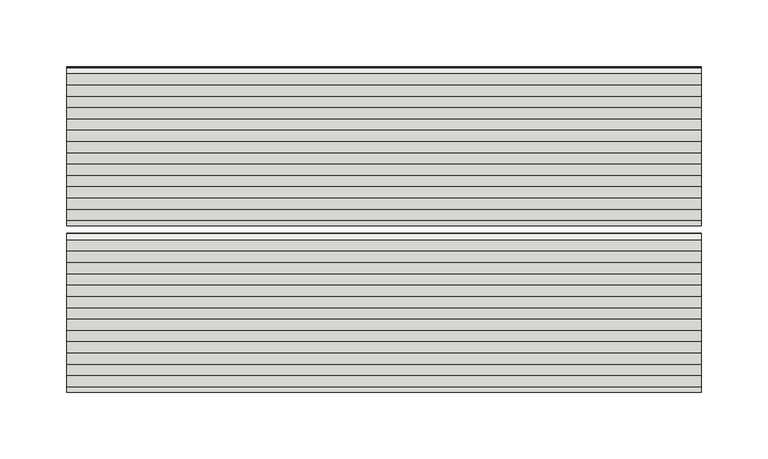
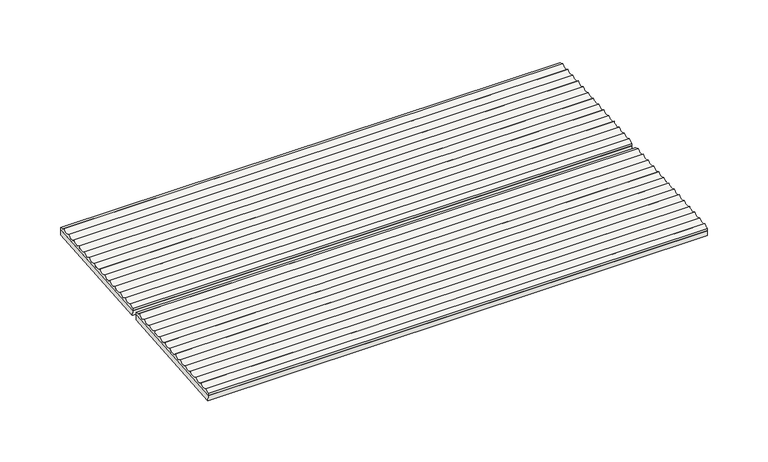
"""IFC4 building model written with IfcOpenShell, lengths in millimetres: slab geometry, ROSA GRES_001 (2 filas) : Piezas 001_Aqua_Blanco_Anti-Slip."""

from ifc_helpers import new_model, si_unit, point, frame, frame_2d, origin, place, context, project, spatial, polyline, circle_curve, trimmed, segment, composite_curve, outline, extrude, source, transform, mapped, element, save


def slab_7381d756(model_context):
    return source(origin(), model_context, "Body", "SweptSolid", [
        extrude(outline(polyline([(0.0, -118.9996), (0.0, 0.0), (475.4755445, 0.0), (475.4755445, -118.9996), (0.0, -118.9996)])), frame((475.4755445, 124.0577627, 199.6968204), z_axis=(0.0, -0.08112705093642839, 0.9967037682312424), x_axis=(-1.0, 0.0, 0.0)), (0.0, 0.0, 1.0), 5.0),
        extrude(outline(polyline([(0.0, -118.9996), (0.0, 0.0), (475.4755445, 0.0), (475.4755445, -118.9996), (0.0, -118.9996)])), frame((475.4755445, 248.6453351, 209.8376693), z_axis=(0.0, -0.08112705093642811, 0.9967037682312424), x_axis=(-1.0, 0.0, 0.0)), (0.0, 0.0, 1.0), 5.0),
        extrude(outline(composite_curve([segment(polyline([(242.2594772, 214.3344258), (123.6521274, 204.6803392), (123.4389282, 207.2996439)]), True, "CONTINUOUS"), segment(trimmed(circle_curve(frame_2d((122.9853249, 212.8724843)), 5.5912705), [point((123.4389282, 207.2996439))], [point((127.5160501, 209.5960785))], True, "CARTESIAN"), True, "CONTINUOUS"), segment(trimmed(circle_curve(frame_2d((131.4572785, 213.5620619)), 5.5912705), [point((127.5160501, 209.5960785))], [point((135.9880037, 210.2856561))], True, "CARTESIAN"), True, "CONTINUOUS"), segment(trimmed(circle_curve(frame_2d((139.929232, 214.2516395)), 5.5912705), [point((135.9880037, 210.2856561))], [point((144.4599572, 210.9752337))], True, "CARTESIAN"), True, "CONTINUOUS"), segment(trimmed(circle_curve(frame_2d((148.4011856, 214.9412171)), 5.5912705), [point((144.4599572, 210.9752337))], [point((152.9319108, 211.6648113))], True, "CARTESIAN"), True, "CONTINUOUS"), segment(trimmed(circle_curve(frame_2d((156.8731392, 215.6307947)), 5.5912705), [point((152.9319108, 211.6648113))], [point((161.4038643, 212.3543889))], True, "CARTESIAN"), True, "CONTINUOUS"), segment(trimmed(circle_curve(frame_2d((165.3450927, 216.3203723)), 5.5912705), [point((161.4038643, 212.3543889))], [point((169.8758179, 213.0439666))], True, "CARTESIAN"), True, "CONTINUOUS"), segment(trimmed(circle_curve(frame_2d((173.8170463, 217.00995)), 5.5912705), [point((169.8758179, 213.0439666))], [point((178.3477714, 213.7335442))], True, "CARTESIAN"), True, "CONTINUOUS"), segment(trimmed(circle_curve(frame_2d((182.2889998, 217.6995276)), 5.5912705), [point((178.3477714, 213.7335442))], [point((186.819725, 214.4231218))], True, "CARTESIAN"), True, "CONTINUOUS"), segment(trimmed(circle_curve(frame_2d((190.7609534, 218.3891052)), 5.5912705), [point((186.819725, 214.4231218))], [point((195.2916785, 215.1126994))], True, "CARTESIAN"), True, "CONTINUOUS"), segment(trimmed(circle_curve(frame_2d((199.2329069, 219.0786828)), 5.5912705), [point((195.2916785, 215.1126994))], [point((203.7636321, 215.802277))], True, "CARTESIAN"), True, "CONTINUOUS"), segment(trimmed(circle_curve(frame_2d((207.7048605, 219.7682604)), 5.5912705), [point((203.7636321, 215.802277))], [point((212.2355856, 216.4918546))], True, "CARTESIAN"), True, "CONTINUOUS"), segment(trimmed(circle_curve(frame_2d((216.176814, 220.457838)), 5.5912705), [point((212.2355856, 216.4918546))], [point((220.7075392, 217.1814322))], True, "CARTESIAN"), True, "CONTINUOUS"), segment(trimmed(circle_curve(frame_2d((224.6487676, 221.1474157)), 5.5912705), [point((220.7075392, 217.1814322))], [point((229.1794928, 217.8710099))], True, "CARTESIAN"), True, "CONTINUOUS"), segment(trimmed(circle_curve(frame_2d((233.1207211, 221.8369933)), 5.5912705), [point((229.1794928, 217.8710099))], [point((237.6514463, 218.5605875))], True, "CARTESIAN"), True, "CONTINUOUS"), segment(trimmed(circle_curve(frame_2d((241.5926747, 222.5265709)), 5.5912705), [point((237.6514463, 218.5605875))], [point((242.046278, 216.9537305))], True, "CARTESIAN"), True, "CONTINUOUS"), segment(polyline([(242.046278, 216.9537305), (242.2594772, 214.3344258)]), True, "CONTINUOUS")], self_intersect=False)), frame((0.0, 0.0, 0.0), z_axis=(1.0, 0.0, 0.0), x_axis=(0.0, 1.0, 0.0)), (0.0, 0.0, 1.0), 475.4755445),
        extrude(outline(composite_curve([segment(polyline([(366.8470495, 224.4752747), (248.2396998, 214.8211881), (248.0265006, 217.4404928)]), True, "CONTINUOUS"), segment(trimmed(circle_curve(frame_2d((247.5728973, 223.0133332)), 5.5912705), [point((248.0265006, 217.4404928))], [point((252.1036225, 219.7369274))], True, "CARTESIAN"), True, "CONTINUOUS"), segment(trimmed(circle_curve(frame_2d((256.0448508, 223.7029108)), 5.5912705), [point((252.1036225, 219.7369274))], [point((260.575576, 220.426505))], True, "CARTESIAN"), True, "CONTINUOUS"), segment(trimmed(circle_curve(frame_2d((264.5168044, 224.3924884)), 5.5912705), [point((260.575576, 220.426505))], [point((269.0475296, 221.1160826))], True, "CARTESIAN"), True, "CONTINUOUS"), segment(trimmed(circle_curve(frame_2d((272.9887579, 225.082066)), 5.5912705), [point((269.0475296, 221.1160826))], [point((277.5194831, 221.8056602))], True, "CARTESIAN"), True, "CONTINUOUS"), segment(trimmed(circle_curve(frame_2d((281.4607115, 225.7716436)), 5.5912705), [point((277.5194831, 221.8056602))], [point((285.9914367, 222.4952379))], True, "CARTESIAN"), True, "CONTINUOUS"), segment(trimmed(circle_curve(frame_2d((289.9326651, 226.4612213)), 5.5912705), [point((285.9914367, 222.4952379))], [point((294.4633902, 223.1848155))], True, "CARTESIAN"), True, "CONTINUOUS"), segment(trimmed(circle_curve(frame_2d((298.4046186, 227.1507989)), 5.5912705), [point((294.4633902, 223.1848155))], [point((302.9353438, 223.8743931))], True, "CARTESIAN"), True, "CONTINUOUS"), segment(trimmed(circle_curve(frame_2d((306.8765722, 227.8403765)), 5.5912705), [point((302.9353438, 223.8743931))], [point((311.4072973, 224.5639707))], True, "CARTESIAN"), True, "CONTINUOUS"), segment(trimmed(circle_curve(frame_2d((315.3485257, 228.5299541)), 5.5912705), [point((311.4072973, 224.5639707))], [point((319.8792509, 225.2535483))], True, "CARTESIAN"), True, "CONTINUOUS"), segment(trimmed(circle_curve(frame_2d((323.8204793, 229.2195317)), 5.5912705), [point((319.8792509, 225.2535483))], [point((328.3512044, 225.9431259))], True, "CARTESIAN"), True, "CONTINUOUS"), segment(trimmed(circle_curve(frame_2d((332.2924328, 229.9091093)), 5.5912705), [point((328.3512044, 225.9431259))], [point((336.823158, 226.6327035))], True, "CARTESIAN"), True, "CONTINUOUS"), segment(trimmed(circle_curve(frame_2d((340.7643864, 230.5986869)), 5.5912705), [point((336.823158, 226.6327035))], [point((345.2951115, 227.3222812))], True, "CARTESIAN"), True, "CONTINUOUS"), segment(trimmed(circle_curve(frame_2d((349.2363399, 231.2882646)), 5.5912705), [point((345.2951115, 227.3222812))], [point((353.7670651, 228.0118588))], True, "CARTESIAN"), True, "CONTINUOUS"), segment(trimmed(circle_curve(frame_2d((357.7082935, 231.9778422)), 5.5912705), [point((353.7670651, 228.0118588))], [point((362.2390187, 228.7014364))], True, "CARTESIAN"), True, "CONTINUOUS"), segment(trimmed(circle_curve(frame_2d((366.180247, 232.6674198)), 5.5912705), [point((362.2390187, 228.7014364))], [point((366.6338503, 227.0945794))], True, "CARTESIAN"), True, "CONTINUOUS"), segment(polyline([(366.6338503, 227.0945794), (366.8470495, 224.4752747)]), True, "CONTINUOUS")], self_intersect=False)), frame((0.0, 0.0, 0.0), z_axis=(1.0, 0.0, 0.0), x_axis=(0.0, 1.0, 0.0)), (0.0, 0.0, 1.0), 475.4755445),
    ])


if __name__ == "__main__":
    model = new_model("IFC4")
    model_context = context("Model", 3, world=origin())
    ifc_project = project(units=[si_unit("LENGTHUNIT", "METRE", prefix="MILLI")], contexts=[model_context])
    site = spatial("IfcSite", under=ifc_project)
    building = spatial("IfcBuilding", under=site)
    placement = place(None, origin())
    slab_shape = slab_7381d756(model_context)
    element("IfcSlab", 1, ObjectType="ROSA GRES_001 (2 filas) : Piezas 001_Aqua_Blanco_Anti-Slip", at=placement, inside=building, context=model_context, shape_type="MappedRepresentation", body=[
        mapped(slab_shape, transform((0.0, 0.0, 0.0), x_axis=(1.0, 0.0, 0.0), y_axis=(0.0, 1.0, 0.0), z_axis=(0.0, 0.0, 1.0))),
    ])
    save(model, "model.ifc")
